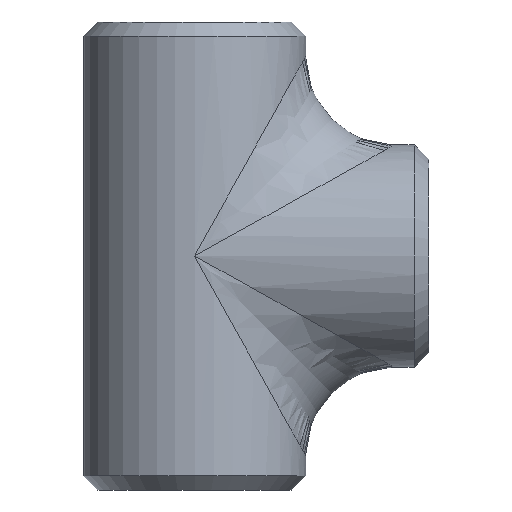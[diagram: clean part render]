
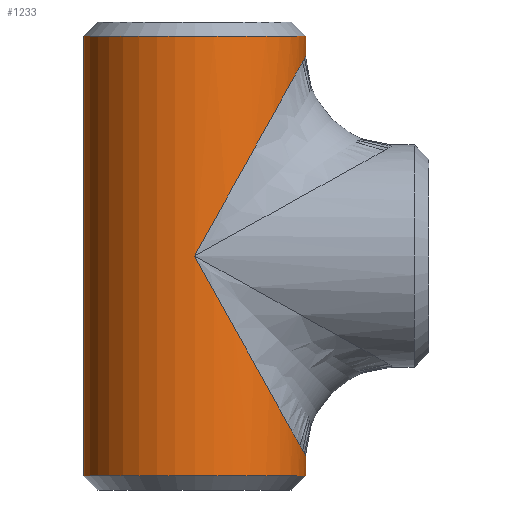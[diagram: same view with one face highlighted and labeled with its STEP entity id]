
A CAD part, front view. The second image highlights one B-rep face of the part: STEP entity #1233.
In plain terms, the highlighted cylindrical face has radius 30.15 mm (diameter 60.3 mm), a partial arc.
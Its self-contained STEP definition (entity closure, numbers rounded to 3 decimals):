
#9 = AXIS2_PLACEMENT_3D ( 'NONE', #709, #1016, #295 ) ;
#23 = EDGE_CURVE ( 'NONE', #607, #698, #1164, .T. ) ;
#56 = AXIS2_PLACEMENT_3D ( 'NONE', #1148, #743, #737 ) ;
#89 = CARTESIAN_POINT ( 'NONE',  ( 30.15, -17.661, -54.27 ) ) ;
#91 = VERTEX_POINT ( 'NONE', #564 ) ;
#187 = CARTESIAN_POINT ( 'NONE',  ( 30.15, 0., -54.27 ) ) ;
#191 = CARTESIAN_POINT ( 'NONE',  ( 30.15, 0., -59.6 ) ) ;
#203 = CARTESIAN_POINT ( 'NONE',  ( 30.15, 0., -54.27 ) ) ;
#220 = EDGE_CURVE ( 'NONE', #1166, #331, #1110, .T. ) ;
#228 = CARTESIAN_POINT ( 'NONE',  ( 17.661, -30.15, 31.791 ) ) ;
#232 = LINE ( 'NONE', #435, #767 ) ;
#285 = DIRECTION ( 'NONE',  ( 1., 0., 0. ) ) ;
#295 = DIRECTION ( 'NONE',  ( 1., 0., 0. ) ) ;
#324 = EDGE_LOOP ( 'NONE', ( #898, #1013, #815, #1005, #1034, #983, #1333 ) ) ;
#331 = VERTEX_POINT ( 'NONE', #964 ) ;
#409 = FACE_OUTER_BOUND ( 'NONE', #324, .T. ) ;
#435 = CARTESIAN_POINT ( 'NONE',  ( 30.15, 0., 63.5 ) ) ;
#473 =( BOUNDED_CURVE ( )  B_SPLINE_CURVE ( 3, ( #203, #89, #820, #1118 ),
 .UNSPECIFIED., .F., .T. ) 
 B_SPLINE_CURVE_WITH_KNOTS ( ( 4, 4 ),
 ( 3.142, 4.712 ),
 .UNSPECIFIED. ) 
 CURVE ( )  GEOMETRIC_REPRESENTATION_ITEM ( )  RATIONAL_B_SPLINE_CURVE ( ( 1., 0.805, 0.805, 1. ) ) 
 REPRESENTATION_ITEM ( '' )  );
#489 = CARTESIAN_POINT ( 'NONE',  ( 0., 0., 59.6 ) ) ;
#520 = CARTESIAN_POINT ( 'NONE',  ( -30.15, 0., 59.6 ) ) ;
#536 = CARTESIAN_POINT ( 'NONE',  ( 0., -30.15, 0. ) ) ;
#564 = CARTESIAN_POINT ( 'NONE',  ( 30.15, 0., 59.6 ) ) ;
#588 = LINE ( 'NONE', #610, #722 ) ;
#607 = VERTEX_POINT ( 'NONE', #891 ) ;
#610 = CARTESIAN_POINT ( 'NONE',  ( 30.15, 0., 63.5 ) ) ;
#672 = DIRECTION ( 'NONE',  ( 0., 0., -1. ) ) ;
#698 = VERTEX_POINT ( 'NONE', #1331 ) ;
#709 = CARTESIAN_POINT ( 'NONE',  ( 0., 0., -59.6 ) ) ;
#722 = VECTOR ( 'NONE', #1125, 1000. ) ;
#737 = DIRECTION ( 'NONE',  ( -1., 0., 0. ) ) ;
#743 = DIRECTION ( 'NONE',  ( 0., 0., -1. ) ) ;
#755 = VERTEX_POINT ( 'NONE', #187 ) ;
#767 = VECTOR ( 'NONE', #1167, 1000. ) ;
#792 = EDGE_CURVE ( 'NONE', #755, #1113, #588, .T. ) ;
#815 = ORIENTED_EDGE ( 'NONE', *, *, #220, .T. ) ;
#820 = CARTESIAN_POINT ( 'NONE',  ( 17.661, -30.15, -31.791 ) ) ;
#829 = CARTESIAN_POINT ( 'NONE',  ( 30.15, -17.661, 54.27 ) ) ;
#838 = EDGE_CURVE ( 'NONE', #755, #607, #473, .T. ) ;
#852 = CIRCLE ( 'NONE', #9, 30.15 ) ;
#863 = AXIS2_PLACEMENT_3D ( 'NONE', #489, #1009, #285 ) ;
#891 = CARTESIAN_POINT ( 'NONE',  ( 0., -30.15, 0. ) ) ;
#898 = ORIENTED_EDGE ( 'NONE', *, *, #1170, .F. ) ;
#925 = EDGE_CURVE ( 'NONE', #91, #1166, #1156, .T. ) ;
#929 = CYLINDRICAL_SURFACE ( 'NONE', #56, 30.15 ) ;
#950 = CARTESIAN_POINT ( 'NONE',  ( 30.15, 0., 54.27 ) ) ;
#964 = CARTESIAN_POINT ( 'NONE',  ( -30.15, 0., -59.6 ) ) ;
#983 = ORIENTED_EDGE ( 'NONE', *, *, #838, .T. ) ;
#1002 = CARTESIAN_POINT ( 'NONE',  ( -30.15, 0., 63.5 ) ) ;
#1005 = ORIENTED_EDGE ( 'NONE', *, *, #1087, .T. ) ;
#1009 = DIRECTION ( 'NONE',  ( 0., 0., -1. ) ) ;
#1013 = ORIENTED_EDGE ( 'NONE', *, *, #925, .T. ) ;
#1016 = DIRECTION ( 'NONE',  ( 0., 0., 1. ) ) ;
#1034 = ORIENTED_EDGE ( 'NONE', *, *, #792, .F. ) ;
#1087 = EDGE_CURVE ( 'NONE', #331, #1113, #852, .T. ) ;
#1110 = LINE ( 'NONE', #1002, #1292 ) ;
#1113 = VERTEX_POINT ( 'NONE', #191 ) ;
#1118 = CARTESIAN_POINT ( 'NONE',  ( 0., -30.15, 0. ) ) ;
#1125 = DIRECTION ( 'NONE',  ( 0., 0., -1. ) ) ;
#1148 = CARTESIAN_POINT ( 'NONE',  ( 0., 0., 63.5 ) ) ;
#1156 = CIRCLE ( 'NONE', #863, 30.15 ) ;
#1164 =( BOUNDED_CURVE ( )  B_SPLINE_CURVE ( 3, ( #536, #228, #829, #950 ),
 .UNSPECIFIED., .F., .F. ) 
 B_SPLINE_CURVE_WITH_KNOTS ( ( 4, 4 ),
 ( 1.571, 3.142 ),
 .UNSPECIFIED. ) 
 CURVE ( )  GEOMETRIC_REPRESENTATION_ITEM ( )  RATIONAL_B_SPLINE_CURVE ( ( 1., 0.805, 0.805, 1. ) ) 
 REPRESENTATION_ITEM ( '' )  );
#1166 = VERTEX_POINT ( 'NONE', #520 ) ;
#1167 = DIRECTION ( 'NONE',  ( 0., 0., -1. ) ) ;
#1170 = EDGE_CURVE ( 'NONE', #91, #698, #232, .T. ) ;
#1233 = ADVANCED_FACE ( 'NONE', ( #409 ), #929, .T. ) ;
#1292 = VECTOR ( 'NONE', #672, 1000. ) ;
#1331 = CARTESIAN_POINT ( 'NONE',  ( 30.15, 0., 54.27 ) ) ;
#1333 = ORIENTED_EDGE ( 'NONE', *, *, #23, .T. ) ;
